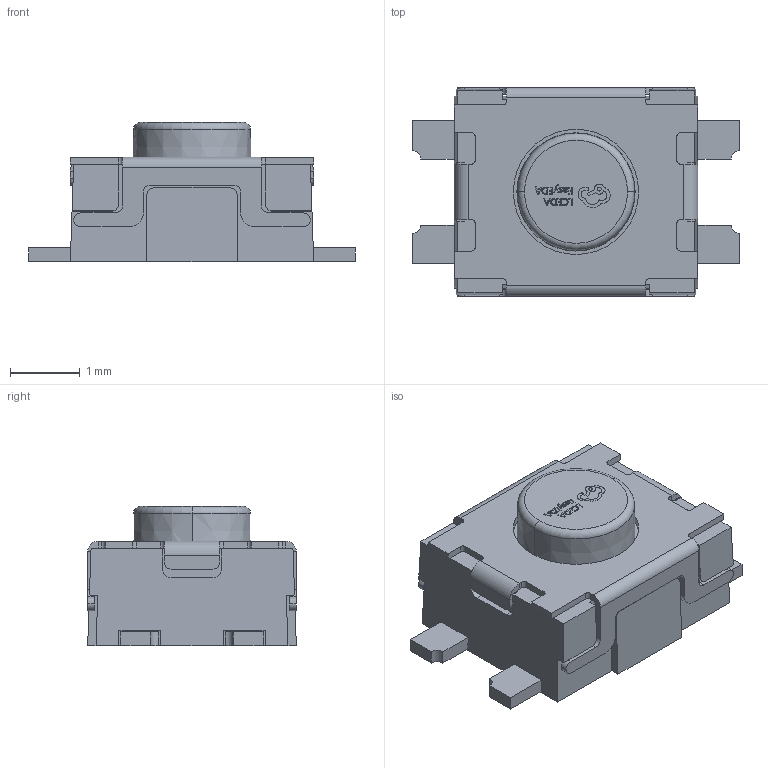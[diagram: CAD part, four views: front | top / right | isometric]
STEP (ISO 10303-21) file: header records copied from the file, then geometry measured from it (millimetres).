
FILE_DESCRIPTION(('Designed by EasyEDA Pro'),'2;1');
FILE_NAME('Open CASCADE Shape Model','2025-04-17T11:45:49',('Author'),( 'Open CASCADE'),'Open CASCADE STEP processor 7.6','Open CASCADE 7.8' ,'Unknown');
FILE_SCHEMA(('AUTOMOTIVE_DESIGN_CC2 { 1 2 10303 214 -1 1 5 4 }'));
Length unit declared in the file: millimetre
Products named in the file (4): PCBModel; a6xb-SW1; SW-SMD_4P-L3.5-W3.0-P1.50-LS4.7-CW-1; COMPOUND
Assembly tree (3 placements, depth 4):
  PCBModel
    a6xb-SW1
      SW-SMD_4P-L3.5-W3.0-P1.50-LS4.7-CW-1
        COMPOUND
Bounding box: 4.7 x 3 x 2 mm (x, y, z)
Volume: 16 mm3; surface area: 70.1 mm2
Topology: 18 solids, 18 shells, 504 faces, 1348 edges, 886 vertices
Faces by surface type: plane 323, bspline 112, cylinder 65, torus 2, cone 2
Entity records: 21194 total; most frequent: CARTESIAN_POINT 4846, ORIENTED_EDGE 2696, DIRECTION 2050, EDGE_CURVE 1348, LINE 982, VECTOR 982, VERTEX_POINT 886, AXIS2_PLACEMENT_3D 534
